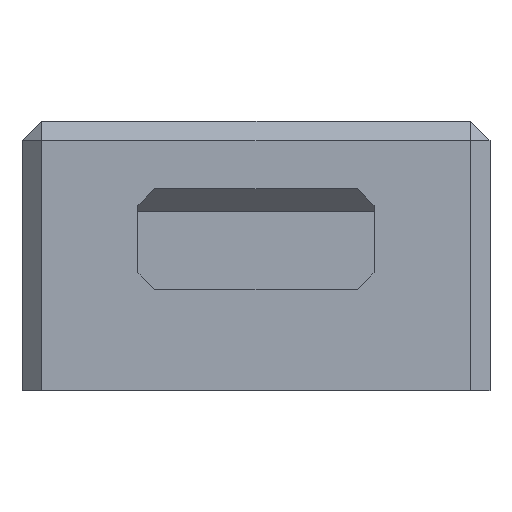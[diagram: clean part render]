
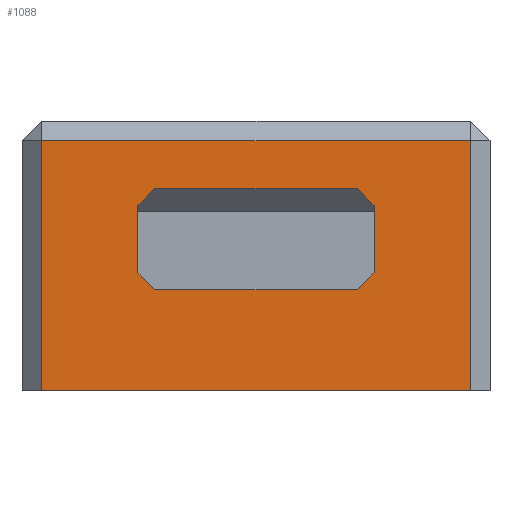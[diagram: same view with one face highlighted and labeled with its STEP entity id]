
A CAD part, front view. The second image highlights one B-rep face of the part: STEP entity #1088.
In plain terms, the highlighted planar face has unit normal (0, -1, 0).
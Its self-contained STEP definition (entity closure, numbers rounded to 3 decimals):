
#325 = VERTEX_POINT('',#326);
#326 = CARTESIAN_POINT('',(12.7,-33.125,-1.));
#332 = EDGE_CURVE('',#333,#325,#335,.T.);
#333 = VERTEX_POINT('',#334);
#334 = CARTESIAN_POINT('',(-12.7,-33.125,-1.));
#335 = LINE('',#336,#337);
#336 = CARTESIAN_POINT('',(-12.7,-33.125,-1.));
#337 = VECTOR('',#338,1.);
#338 = DIRECTION('',(1.,0.,0.));
#1069 = VERTEX_POINT('',#1070);
#1070 = CARTESIAN_POINT('',(12.7,-33.125,13.825));
#1076 = EDGE_CURVE('',#1069,#325,#1077,.T.);
#1077 = LINE('',#1078,#1079);
#1078 = CARTESIAN_POINT('',(12.7,-33.125,0.));
#1079 = VECTOR('',#1080,1.);
#1080 = DIRECTION('',(0.,0.,-1.));
#1088 = ADVANCED_FACE('',(#1089,#1107),#1173,.T.);
#1089 = FACE_BOUND('',#1090,.T.);
#1090 = EDGE_LOOP('',(#1091,#1099,#1105,#1106));
#1091 = ORIENTED_EDGE('',*,*,#1092,.F.);
#1092 = EDGE_CURVE('',#1093,#1069,#1095,.T.);
#1093 = VERTEX_POINT('',#1094);
#1094 = CARTESIAN_POINT('',(-12.7,-33.125,13.825));
#1095 = LINE('',#1096,#1097);
#1096 = CARTESIAN_POINT('',(-13.875,-33.125,13.825));
#1097 = VECTOR('',#1098,1.);
#1098 = DIRECTION('',(1.,0.,0.));
#1099 = ORIENTED_EDGE('',*,*,#1100,.F.);
#1100 = EDGE_CURVE('',#333,#1093,#1101,.T.);
#1101 = LINE('',#1102,#1103);
#1102 = CARTESIAN_POINT('',(-12.7,-33.125,0.));
#1103 = VECTOR('',#1104,1.);
#1104 = DIRECTION('',(0.,0.,1.));
#1105 = ORIENTED_EDGE('',*,*,#332,.T.);
#1106 = ORIENTED_EDGE('',*,*,#1076,.F.);
#1107 = FACE_BOUND('',#1108,.T.);
#1108 = EDGE_LOOP('',(#1109,#1119,#1127,#1135,#1143,#1151,#1159,#1167));
#1109 = ORIENTED_EDGE('',*,*,#1110,.F.);
#1110 = EDGE_CURVE('',#1111,#1113,#1115,.T.);
#1111 = VERTEX_POINT('',#1112);
#1112 = CARTESIAN_POINT('',(-7.,-33.125,10.));
#1113 = VERTEX_POINT('',#1114);
#1114 = CARTESIAN_POINT('',(-7.,-33.125,6.));
#1115 = LINE('',#1116,#1117);
#1116 = CARTESIAN_POINT('',(-7.,-33.125,11.));
#1117 = VECTOR('',#1118,1.);
#1118 = DIRECTION('',(0.,0.,-1.));
#1119 = ORIENTED_EDGE('',*,*,#1120,.T.);
#1120 = EDGE_CURVE('',#1111,#1121,#1123,.T.);
#1121 = VERTEX_POINT('',#1122);
#1122 = CARTESIAN_POINT('',(-6.,-33.125,11.));
#1123 = LINE('',#1124,#1125);
#1124 = CARTESIAN_POINT('',(-10.219,-33.125,6.781));
#1125 = VECTOR('',#1126,1.);
#1126 = DIRECTION('',(0.707,0.,0.707));
#1127 = ORIENTED_EDGE('',*,*,#1128,.F.);
#1128 = EDGE_CURVE('',#1129,#1121,#1131,.T.);
#1129 = VERTEX_POINT('',#1130);
#1130 = CARTESIAN_POINT('',(6.,-33.125,11.));
#1131 = LINE('',#1132,#1133);
#1132 = CARTESIAN_POINT('',(7.,-33.125,11.));
#1133 = VECTOR('',#1134,1.);
#1134 = DIRECTION('',(-1.,0.,0.));
#1135 = ORIENTED_EDGE('',*,*,#1136,.T.);
#1136 = EDGE_CURVE('',#1129,#1137,#1139,.T.);
#1137 = VERTEX_POINT('',#1138);
#1138 = CARTESIAN_POINT('',(7.,-33.125,10.));
#1139 = LINE('',#1140,#1141);
#1140 = CARTESIAN_POINT('',(4.781,-33.125,12.219));
#1141 = VECTOR('',#1142,1.);
#1142 = DIRECTION('',(0.707,0.,-0.707));
#1143 = ORIENTED_EDGE('',*,*,#1144,.F.);
#1144 = EDGE_CURVE('',#1145,#1137,#1147,.T.);
#1145 = VERTEX_POINT('',#1146);
#1146 = CARTESIAN_POINT('',(7.,-33.125,6.));
#1147 = LINE('',#1148,#1149);
#1148 = CARTESIAN_POINT('',(7.,-33.125,5.));
#1149 = VECTOR('',#1150,1.);
#1150 = DIRECTION('',(0.,0.,1.));
#1151 = ORIENTED_EDGE('',*,*,#1152,.T.);
#1152 = EDGE_CURVE('',#1145,#1153,#1155,.T.);
#1153 = VERTEX_POINT('',#1154);
#1154 = CARTESIAN_POINT('',(6.,-33.125,5.));
#1155 = LINE('',#1156,#1157);
#1156 = CARTESIAN_POINT('',(0.781,-33.125,-0.219));
#1157 = VECTOR('',#1158,1.);
#1158 = DIRECTION('',(-0.707,0.,-0.707));
#1159 = ORIENTED_EDGE('',*,*,#1160,.F.);
#1160 = EDGE_CURVE('',#1161,#1153,#1163,.T.);
#1161 = VERTEX_POINT('',#1162);
#1162 = CARTESIAN_POINT('',(-6.,-33.125,5.));
#1163 = LINE('',#1164,#1165);
#1164 = CARTESIAN_POINT('',(-7.,-33.125,5.));
#1165 = VECTOR('',#1166,1.);
#1166 = DIRECTION('',(1.,0.,0.));
#1167 = ORIENTED_EDGE('',*,*,#1168,.F.);
#1168 = EDGE_CURVE('',#1113,#1161,#1169,.T.);
#1169 = LINE('',#1170,#1171);
#1170 = CARTESIAN_POINT('',(-6.219,-33.125,5.219));
#1171 = VECTOR('',#1172,1.);
#1172 = DIRECTION('',(0.707,0.,-0.707));
#1173 = PLANE('',#1174);
#1174 = AXIS2_PLACEMENT_3D('',#1175,#1176,#1177);
#1175 = CARTESIAN_POINT('',(0.,-33.125,6.413));
#1176 = DIRECTION('',(-0.,-1.,-0.));
#1177 = DIRECTION('',(0.,0.,-1.));
